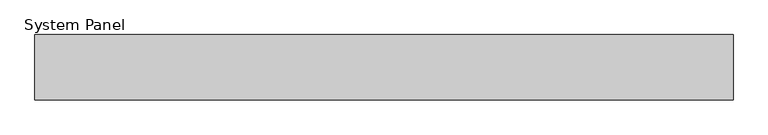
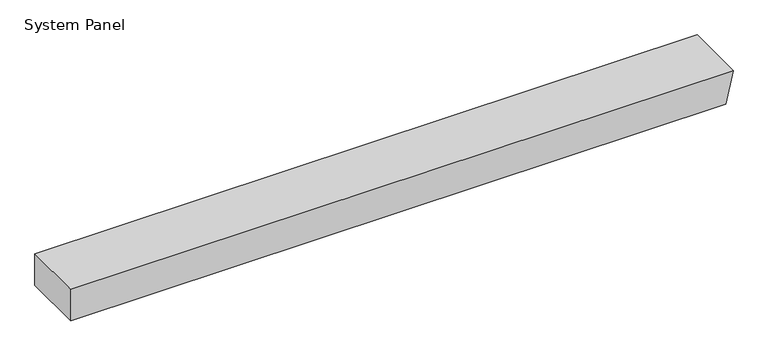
"""IFC4 building model written with IfcOpenShell, lengths in millimetres: plate geometry, System Panel : Equitilt 150mm Horizontal - Plain RHEA - EPS-FR."""

from ifc_helpers import new_model, si_unit, frame, origin, place, context, project, spatial, polyline, outline, extrude, source, transform, mapped, element, save


def system_panel_9f1cbbff(model_context):
    return source(origin(), model_context, "Body", "SweptSolid", [
        extrude(outline(polyline([(0.0, -800.0), (0.0, 782.6149856), (79.9704237, 800.0), (79.9704237, -800.0), (0.0, -800.0)])), frame((0.0, -150.0, 0.0), z_axis=(0.0, 1.0, 0.0), x_axis=(0.0, 0.0, 1.0)), (0.0, 0.0, 1.0), 150.0),
    ])


if __name__ == "__main__":
    model = new_model("IFC4")
    model_context = context("Model", 3, world=origin())
    ifc_project = project(units=[si_unit("LENGTHUNIT", "METRE", prefix="MILLI")], contexts=[model_context])
    site = spatial("IfcSite", under=ifc_project)
    building = spatial("IfcBuilding", under=site)
    placement = place(None, origin())
    system_panel_shape = system_panel_9f1cbbff(model_context)
    element("IfcPlate", 1, ObjectType="System Panel : Equitilt 150mm Horizontal - Plain RHEA - EPS-FR", at=placement, inside=building, context=model_context, shape_type="MappedRepresentation", body=[
        mapped(system_panel_shape, transform((0.0, 0.0, 0.0), x_axis=(1.0, 0.0, 0.0), y_axis=(0.0, 1.0, 0.0), z_axis=(0.0, 0.0, 1.0))),
    ])
    save(model, "model.ifc")
